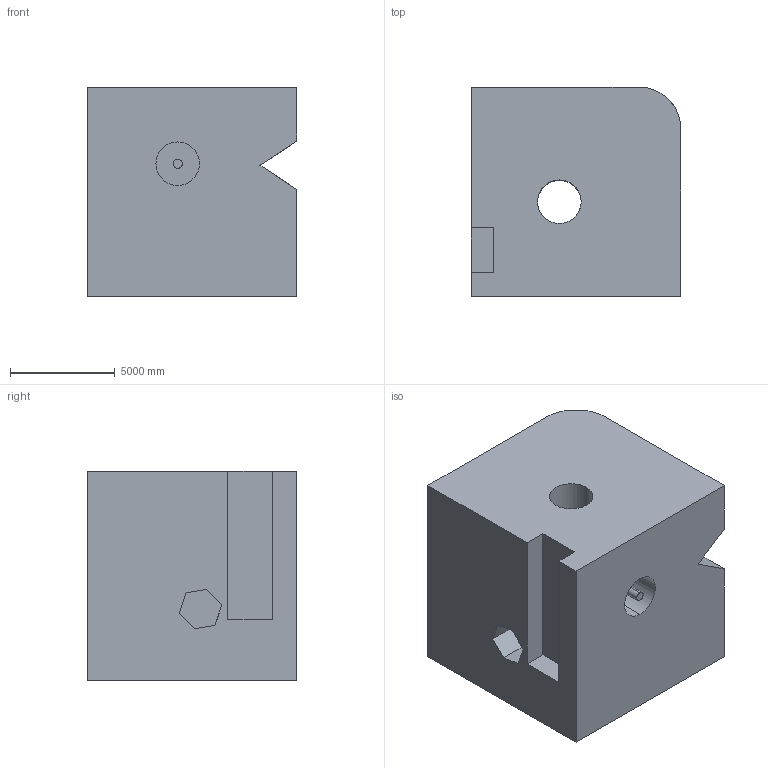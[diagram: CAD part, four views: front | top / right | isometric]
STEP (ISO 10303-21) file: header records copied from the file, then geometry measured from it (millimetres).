
FILE_DESCRIPTION (( 'STEP AP203' ), '1' );
FILE_NAME ('1731.STEP', '2022-08-19T12:10:30', ( 'user' ), ( '' ), 'SwSTEP 2.0', 'SolidWorks 2021', '' );
FILE_SCHEMA (( 'CONFIG_CONTROL_DESIGN' ));
Length unit declared in the file: centimetre
Products named in the file (1): 1731
Bounding box: 10000 x 10000 x 10000 mm (x, y, z)
Volume: 892079778332 mm3; surface area: 729556625.6 mm2
Topology: 1 solids, 1 shells, 46 faces, 123 edges, 82 vertices
Faces by surface type: plane 31, cylinder 15
Entity records: 1674 total; most frequent: CARTESIAN_POINT 482, ORIENTED_EDGE 246, DIRECTION 215, EDGE_CURVE 123, VERTEX_POINT 82, VECTOR 77, LINE 77, AXIS2_PLACEMENT_3D 69
